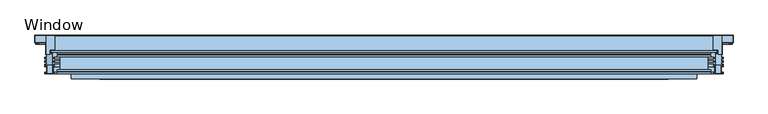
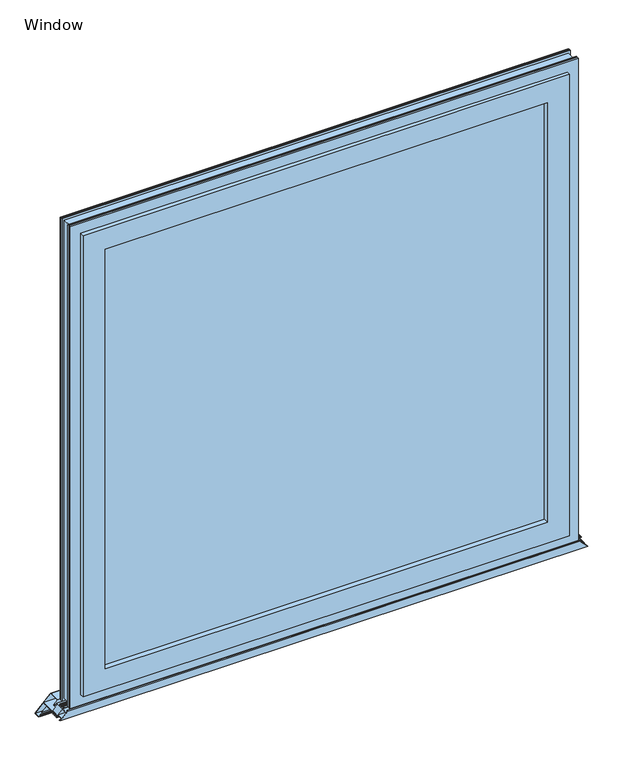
"""IFC4 building model written with IfcOpenShell, lengths in millimetres: window geometry, QO-H-QBISS_Window Module : Window."""

from ifc_helpers import new_model, si_unit, frame, origin, place, context, project, spatial, polyline, ellipse_curve, outline, extrude, faceted_brep, source, transform, mapped, element, save
from ifc_brep_helpers import plane_surface, cylinder_surface, advanced_brep


def window_7dbde55a(model_context):
    return source(origin(), model_context, "Body", "SolidModel", [
        extrude(outline(polyline([(-818.7352561, -85.0037561), (818.7352561, -85.0037561), (818.7352561, -105.0037561), (-818.7352561, -105.0037561), (-818.7352561, -85.0037561)])), frame((0.0, 0.0, 164.014744), z_axis=(0.0, 0.0, 1.0), x_axis=(1.0, 0.0, 0.0)), (0.0, 0.0, 1.0), 1640.970512),
        faceted_brep([(847.4521019, -67.0037561, 135.2978983), (847.4521019, -50.0037561, 135.2978983), (847.4521019, -50.0037561, 1833.7021017), (847.4521019, -67.0037561, 1833.7021017), (855.7500002, -50.0037561, 127.0), (855.7500002, -67.0037561, 127.0), (855.7500002, -67.0037561, 1842.0), (855.7500002, -50.0037561, 1842.0), (923.7500002, -53.8037561, 59.0), (923.7500002, -50.0037561, 59.0), (923.7500002, -50.0037561, 1910.0), (923.7500002, -53.8037561, 1910.0), (915.7500002, -57.8037561, 67.0), (915.7500002, -53.8037561, 67.0), (915.7500002, -53.8037561, 1902.0), (915.7500002, -57.8037561, 1902.0), (923.7500002, -62.1037561, 59.0), (923.7500002, -57.8037561, 59.0), (923.7500002, -57.8037561, 1910.0), (923.7500002, -62.1037561, 1910.0), (915.7500002, -97.9037561, 67.0), (915.7500002, -62.1037561, 67.0), (915.7500002, -62.1037561, 1902.0), (915.7500002, -97.9037561, 1902.0), (923.7500002, -102.2037561, 59.0), (923.7500002, -97.9037561, 59.0), (923.7500002, -97.9037561, 1910.0), (923.7500002, -102.2037561, 1910.0), (915.7500002, -106.2037561, 67.0), (915.7500002, -102.2037561, 67.0), (915.7500002, -102.2037561, 1902.0), (915.7500002, -106.2037561, 1902.0), (923.7500002, -110.0037561, 59.0), (923.7500002, -106.2037561, 59.0), (923.7500002, -106.2037561, 1910.0), (923.7500002, -110.0037561, 1910.0), (875.7500002, -98.8037561, 107.0), (875.7500002, -110.0037561, 107.0), (875.7500002, -110.0037561, 1862.0), (875.7500002, -98.8037561, 1862.0), (881.5627685, -62.5037561, 101.1872316), (881.5627685, -98.8037561, 101.1872316), (881.5627685, -98.8037561, 1867.8127684), (881.5627685, -62.5037561, 1867.8127684), (863.7500002, -114.5037561, 119.0), (863.7500002, -62.5037561, 119.0), (863.7500002, -62.5037561, 1850.0), (863.7500002, -114.5037561, 1850.0), (881.5627685, -110.7626496, 101.1872316), (881.5627685, -114.5037561, 101.1872316), (881.5627685, -114.5037561, 1867.8127684), (881.5627685, -110.7626496, 1867.8127684), (883.7500002, -124.5037561, 99.0), (883.7500002, -110.7626496, 99.0), (883.7500002, -110.7626496, 1870.0), (883.7500002, -124.5037561, 1870.0), (803.7500002, -105.0036269, 179.0), (803.7500002, -124.5037561, 179.0), (803.7500002, -124.5037561, 1790.0), (803.7500002, -105.0036269, 1790.0), (818.7352561, -85.0036357, 164.014744), (818.7352561, -105.0036269, 164.014744), (818.7352561, -105.0036269, 1804.985256), (818.7352561, -85.0036357, 1804.985256), (803.7500002, -50.0037561, 179.0), (803.7500002, -85.0036357, 179.0), (803.7500002, -85.0036357, 1790.0), (803.7500002, -50.0037561, 1790.0), (-847.4521019, -50.0037561, 1833.7021017), (-847.4521019, -67.0037561, 1833.7021017), (-855.7500002, -67.0037561, 1842.0), (-855.7500002, -50.0037561, 1842.0), (-923.7500002, -50.0037561, 1910.0), (-923.7500002, -53.8037561, 1910.0), (-915.7500002, -53.8037561, 1902.0), (-915.7500002, -57.8037561, 1902.0), (-923.7500002, -57.8037561, 1910.0), (-923.7500002, -62.1037561, 1910.0), (-915.7500002, -62.1037561, 1902.0), (-915.7500002, -97.9037561, 1902.0), (-923.7500002, -97.9037561, 1910.0), (-923.7500002, -102.2037561, 1910.0), (-915.7500002, -102.2037561, 1902.0), (-915.7500002, -106.2037561, 1902.0), (-923.7500002, -106.2037561, 1910.0), (-923.7500002, -110.0037561, 1910.0), (-875.7500002, -110.0037561, 1862.0), (-875.7500002, -98.8037561, 1862.0), (-881.5627685, -98.8037561, 1867.8127684), (-881.5627685, -62.5037561, 1867.8127684), (-863.7500002, -62.5037561, 1850.0), (-863.7500002, -114.5037561, 1850.0), (-881.5627685, -114.5037561, 1867.8127684), (-881.5627685, -110.7626496, 1867.8127684), (-883.7500002, -110.7626496, 1870.0), (-883.7500002, -124.5037561, 1870.0), (-803.7500002, -124.5037561, 1790.0), (-803.7500002, -105.0036269, 1790.0), (-818.7352561, -105.0036269, 1804.985256), (-818.7352561, -85.0036357, 1804.985256), (-803.7500002, -85.0036357, 1790.0), (-803.7500002, -50.0037561, 1790.0), (-847.4521019, -50.0037561, 135.2978983), (-847.4521019, -67.0037561, 135.2978983), (-855.7500002, -67.0037561, 127.0), (-855.7500002, -50.0037561, 127.0), (-923.7500002, -50.0037561, 59.0), (-923.7500002, -53.8037561, 59.0), (-915.7500002, -53.8037561, 67.0), (-915.7500002, -57.8037561, 67.0), (-923.7500002, -57.8037561, 59.0), (-923.7500002, -62.1037561, 59.0), (-915.7500002, -62.1037561, 67.0), (-915.7500002, -97.9037561, 67.0), (-923.7500002, -97.9037561, 59.0), (-923.7500002, -102.2037561, 59.0), (-915.7500002, -102.2037561, 67.0), (-915.7500002, -106.2037561, 67.0), (-923.7500002, -106.2037561, 59.0), (-923.7500002, -110.0037561, 59.0), (-875.7500002, -110.0037561, 107.0), (-875.7500002, -98.8037561, 107.0), (-881.5627685, -98.8037561, 101.1872316), (-881.5627685, -62.5037561, 101.1872316), (-863.7500002, -62.5037561, 119.0), (-863.7500002, -114.5037561, 119.0), (-881.5627685, -114.5037561, 101.1872316), (-881.5627685, -110.7626496, 101.1872316), (-883.7500002, -110.7626496, 99.0), (-883.7500002, -124.5037561, 99.0), (-803.7500002, -124.5037561, 179.0), (-803.7500002, -105.0036269, 179.0), (-818.7352561, -105.0036269, 164.014744), (-818.7352561, -85.0036357, 164.014744), (-803.7500002, -85.0036357, 179.0), (-803.7500002, -50.0037561, 179.0)], [[[0, 1, 2, 3]], [[4, 5, 6, 7]], [[8, 9, 10, 11]], [[12, 13, 14, 15]], [[16, 17, 18, 19]], [[20, 21, 22, 23]], [[24, 25, 26, 27]], [[28, 29, 30, 31]], [[32, 33, 34, 35]], [[36, 37, 38, 39]], [[40, 41, 42, 43]], [[44, 45, 46, 47]], [[48, 49, 50, 51]], [[52, 53, 54, 55]], [[56, 57, 58, 59]], [[60, 61, 62, 63]], [[64, 65, 66, 67]], [[3, 2, 68, 69]], [[7, 6, 70, 71]], [[11, 10, 72, 73]], [[15, 14, 74, 75]], [[19, 18, 76, 77]], [[23, 22, 78, 79]], [[27, 26, 80, 81]], [[31, 30, 82, 83]], [[35, 34, 84, 85]], [[39, 38, 86, 87]], [[43, 42, 88, 89]], [[47, 46, 90, 91]], [[51, 50, 92, 93]], [[55, 54, 94, 95]], [[59, 58, 96, 97]], [[63, 62, 98, 99]], [[67, 66, 100, 101]], [[69, 68, 102, 103]], [[71, 70, 104, 105]], [[73, 72, 106, 107]], [[75, 74, 108, 109]], [[77, 76, 110, 111]], [[79, 78, 112, 113]], [[81, 80, 114, 115]], [[83, 82, 116, 117]], [[85, 84, 118, 119]], [[87, 86, 120, 121]], [[89, 88, 122, 123]], [[91, 90, 124, 125]], [[93, 92, 126, 127]], [[95, 94, 128, 129]], [[97, 96, 130, 131]], [[99, 98, 132, 133]], [[101, 100, 134, 135]], [[103, 102, 1, 0]], [[5, 104, 70, 6], [3, 69, 103, 0]], [[105, 104, 5, 4]], [[9, 106, 72, 10], [7, 71, 105, 4]], [[107, 106, 9, 8]], [[11, 73, 107, 8], [13, 108, 74, 14]], [[109, 108, 13, 12]], [[17, 110, 76, 18], [15, 75, 109, 12]], [[111, 110, 17, 16]], [[19, 77, 111, 16], [21, 112, 78, 22]], [[113, 112, 21, 20]], [[25, 114, 80, 26], [23, 79, 113, 20]], [[115, 114, 25, 24]], [[27, 81, 115, 24], [29, 116, 82, 30]], [[117, 116, 29, 28]], [[33, 118, 84, 34], [31, 83, 117, 28]], [[119, 118, 33, 32]], [[35, 85, 119, 32], [37, 120, 86, 38]], [[121, 120, 37, 36]], [[41, 122, 88, 42], [39, 87, 121, 36]], [[123, 122, 41, 40]], [[43, 89, 123, 40], [45, 124, 90, 46]], [[125, 124, 45, 44]], [[49, 126, 92, 50], [47, 91, 125, 44]], [[127, 126, 49, 48]], [[53, 128, 94, 54], [51, 93, 127, 48]], [[129, 128, 53, 52]], [[55, 95, 129, 52], [57, 130, 96, 58]], [[131, 130, 57, 56]], [[61, 132, 98, 62], [59, 97, 131, 56]], [[133, 132, 61, 60]], [[63, 99, 133, 60], [65, 134, 100, 66]], [[135, 134, 65, 64]], [[1, 102, 68, 2], [67, 101, 135, 64]]]),
        advanced_brep(
        [(957.2023459, -75.0037405, 25.5476542), (953.7023453, -75.0037405, 29.0476548), (-953.7023453, -75.0037405, 29.0476548), (-957.2023459, -75.0037405, 25.5476542), (957.2023459, -76.5037405, 25.5476542), (-957.2023459, -76.5037405, 25.5476542), (958.7023459, -76.5037405, 24.0476542), (-958.7023459, -76.5037405, 24.0476542), (958.7023459, -72.6037405, 24.0476542), (-958.7023459, -72.6037405, 24.0476542), (957.2023459, -72.6037405, 25.5476542), (-957.2023459, -72.6037405, 25.5476542), (957.2023459, -73.8037405, 25.5476542), (-957.2023459, -73.8037405, 25.5476542), (953.7023459, -73.8037405, 29.0476542), (-953.7023459, -73.8037405, 29.0476542), (953.7023459, -65.7037405, 29.0476542), (-953.7023459, -65.7037405, 29.0476542), (957.2023459, -65.7037405, 25.5476542), (-957.2023459, -65.7037405, 25.5476542), (957.2023459, -66.9037405, 25.5476542), (-957.2023459, -66.9037405, 25.5476542), (958.7023459, -66.9037405, 24.0476542), (-958.7023459, -66.9037405, 24.0476542), (958.7023459, -63.0037405, 24.0476542), (-958.7023459, -63.0037405, 24.0476542), (957.2023459, -63.0037405, 25.5476542), (-957.2023459, -63.0037405, 25.5476542), (957.2023459, -64.5037405, 25.5476542), (-957.2023459, -64.5037405, 25.5476542), (953.7023461, -64.5037405, 29.0476541), (-953.7023461, -64.5037405, 29.0476541), (953.7023461, -55.4999986, 29.0476541), (-953.7023461, -55.4999986, 29.0476541), (956.5500002, -55.4999986, 26.2), (-956.5500002, -55.4999986, 26.2), (956.5500002, -22.4, 26.2), (-956.5500002, -22.4, 26.2), (973.9518297, -22.4, 8.7981705), (-973.9518297, -22.4, 8.7981705), (973.9518297, -26.0, 8.7981705), (-973.9518297, -26.0, 8.7981705), (976.7518297, -26.0, 5.9981705), (-976.7518297, -26.0, 5.9981705), (976.7518297, -24.7, 5.9981705), (-976.7518297, -24.7, 5.9981705), (975.4518297, -24.7, 7.2981705), (-975.4518297, -24.7, 7.2981705), (975.4518297, -22.7, 7.2981705), (-975.4518297, -22.7, 7.2981705), (983.0518297, -22.7, -0.3018295), (-983.0518297, -22.7, -0.3018295), (983.0518297, -24.8, -0.3018295), (-983.0518297, -24.8, -0.3018295), (981.7518297, -24.8, 0.9981705), (-981.7518297, -24.8, 0.9981705), (981.7518297, -26.0, 0.9981705), (-981.7518297, -26.0, 0.9981705), (984.5518297, -26.0, -1.8018295), (-984.5518297, -26.0, -1.8018295), (984.5518297, -22.4, -1.8018295), (-984.5518297, -22.4, -1.8018295), (-986.7500002, -22.4, -4.0), (986.7500002, -22.4, -4.0), (-986.7500002, -2.0, -4.0), (986.7500002, -2.0, -4.0), (-984.7500002, 0.0, -2.0), (984.7500002, 0.0, -2.0), (930.7500002, 0.0, 52.0), (-930.7500002, 0.0, 52.0), (928.7500002, -2.0, 54.0), (-928.7500002, -2.0, 54.0), (928.7500002, -43.5, 54.0), (-928.7500002, -43.5, 54.0), (942.5500002, -43.5, 40.2), (-942.5500002, -43.5, 40.2), (942.5500002, -54.0, 40.2), (-942.5500002, -54.0, 40.2), (937.1500002, -54.0, 45.6), (-937.1500002, -54.0, 45.6), (937.1500002, -51.0, 45.6), (-937.1500002, -51.0, 45.6), (939.0500002, -51.0, 43.7), (-939.0500002, -51.0, 43.7), (939.0500002, -49.6, 43.7), (-939.0500002, -49.6, 43.7), (935.7500002, -49.6, 47.0), (-935.7500002, -49.6, 47.0), (935.7500002, -64.5037405, 47.0), (-935.7500002, -64.5037405, 47.0), (932.3013135, -64.5037405, 50.4486867), (-932.3013135, -64.5037405, 50.4486867), (932.3013135, -63.0037405, 50.4486867), (-932.3013135, -63.0037405, 50.4486867), (930.8013135, -63.0037405, 51.9486867), (-930.8013135, -63.0037405, 51.9486867), (930.8013135, -66.9037405, 51.9486867), (-930.8013135, -66.9037405, 51.9486867), (932.3013135, -66.9037405, 50.4486867), (-932.3013135, -66.9037405, 50.4486867), (932.3013135, -65.7037405, 50.4486867), (-932.3013135, -65.7037405, 50.4486867), (935.8013135, -65.7037405, 46.9486867), (-935.8013135, -65.7037405, 46.9486867), (935.8013135, -73.8037405, 46.9486867), (-935.8013135, -73.8037405, 46.9486867), (932.3013135, -73.8037405, 50.4486867), (-932.3013135, -73.8037405, 50.4486867), (932.3013135, -72.6037405, 50.4486867), (-932.3013135, -72.6037405, 50.4486867), (930.8013135, -72.6037405, 51.9486867), (-930.8013135, -72.6037405, 51.9486867), (930.8013135, -76.5037405, 51.9486867), (-930.8013135, -76.5037405, 51.9486867), (932.3013135, -76.5037405, 50.4486867), (-932.3013135, -76.5037405, 50.4486867), (932.3013135, -75.0037405, 50.4486867), (-932.3013135, -75.0037405, 50.4486867), (935.8013141, -75.0037405, 46.9486861), (-935.8013141, -75.0037405, 46.9486861), (935.8013141, -84.0037561, 46.9486861), (-935.8013141, -84.0037561, 46.9486861), (932.2518297, -84.0037561, 50.4981705), (-932.2518297, -84.0037561, 50.4981705), (932.2518297, -82.8037561, 50.4981705), (-932.2518297, -82.8037561, 50.4981705), (930.7518297, -82.8037561, 51.9981705), (-930.7518297, -82.8037561, 51.9981705), (930.7518297, -89.5037561, 51.9981705), (-930.7518297, -89.5037561, 51.9981705), (932.2518297, -89.5037561, 50.4981705), (-932.2518297, -89.5037561, 50.4981705), (932.2518297, -85.7037561, 50.4981705), (-932.2518297, -85.7037561, 50.4981705), (935.5518297, -85.7037561, 47.1981705), (-935.5518297, -85.7037561, 47.1981705), (935.5518297, -108.3037561, 47.1981705), (-935.5518297, -108.3037561, 47.1981705), (932.2518297, -108.3037561, 50.4981705), (-932.2518297, -108.3037561, 50.4981705), (932.2518297, -105.5037561, 50.4981705), (-932.2518297, -105.5037561, 50.4981705), (930.7518297, -105.5037561, 51.9981705), (-930.7518297, -105.5037561, 51.9981705), (930.7518297, -110.0037561, 51.9981705), (-930.7518297, -110.0037561, 51.9981705), (958.7518297, -110.0037561, 23.9981705), (-958.7518297, -110.0037561, 23.9981705), (958.7518297, -105.5037561, 23.9981705), (-958.7518297, -105.5037561, 23.9981705), (957.2518297, -105.5037561, 25.4981705), (-957.2518297, -105.5037561, 25.4981705), (957.2518297, -108.3037561, 25.4981705), (-957.2518297, -108.3037561, 25.4981705), (953.9518297, -108.3037561, 28.7981705), (-953.9518297, -108.3037561, 28.7981705), (953.9518297, -85.7037561, 28.7981705), (-953.9518297, -85.7037561, 28.7981705), (957.2518297, -85.7037561, 25.4981705), (-957.2518297, -85.7037561, 25.4981705), (957.2518297, -89.5037561, 25.4981705), (-957.2518297, -89.5037561, 25.4981705), (958.7518297, -89.5037561, 23.9981705), (-958.7518297, -89.5037561, 23.9981705), (958.7518297, -82.8037561, 23.9981705), (-958.7518297, -82.8037561, 23.9981705), (957.2518297, -82.8037561, 25.4981705), (-957.2518297, -82.8037561, 25.4981705), (957.2518297, -84.0037561, 25.4981705), (-957.2518297, -84.0037561, 25.4981705), (953.7023453, -84.0037561, 29.0476548), (-953.7023453, -84.0037561, 29.0476548), (985.2500002, -1.5, -2.5), (956.5500002, -1.5, 26.2), (-956.5500002, -1.5, 26.2), (-985.2500002, -1.5, -2.5), (985.2500002, -20.7, -2.5), (-985.2500002, -20.7, -2.5), (956.5500002, -20.7, 26.2), (-956.5500002, -20.7, 26.2), (930.4500002, -41.5, 52.3), (944.5500002, -41.5, 38.2), (-944.5500002, -41.5, 38.2), (-930.4500002, -41.5, 52.3), (930.4500002, -1.5, 52.3), (-930.4500002, -1.5, 52.3), (954.8500002, -1.5, 27.9), (-954.8500002, -1.5, 27.9), (954.8500002, -54.0, 27.9), (-954.8500002, -54.0, 27.9), (944.5500002, -54.0, 38.2), (-944.5500002, -54.0, 38.2), (937.4518297, -85.7037561, 45.2981705), (937.4518297, -108.3037561, 45.2981705), (-937.4518297, -108.3037561, 45.2981705), (-937.4518297, -85.7037561, 45.2981705), (952.0518297, -85.7037561, 30.6981705), (-952.0518297, -85.7037561, 30.6981705), (952.0518297, -108.3037561, 30.6981705), (-952.0518297, -108.3037561, 30.6981705)],
        [
            (0, 1),
            (1, 2),
            (2, 3),
            (3, 0),
            (4, 0),
            (3, 5),
            (5, 4),
            (6, 4),
            (5, 7),
            (7, 6),
            (8, 6),
            (7, 9),
            (9, 8),
            (10, 8),
            (9, 11),
            (11, 10),
            (12, 10),
            (11, 13),
            (13, 12),
            (14, 12),
            (13, 15),
            (15, 14),
            (16, 14),
            (15, 17),
            (17, 16),
            (18, 16),
            (17, 19),
            (19, 18),
            (20, 18),
            (19, 21),
            (21, 20),
            (22, 20),
            (21, 23),
            (23, 22),
            (24, 22),
            (23, 25),
            (25, 24),
            (26, 24),
            (25, 27),
            (27, 26),
            (28, 26),
            (27, 29),
            (29, 28),
            (30, 28),
            (29, 31),
            (31, 30),
            (32, 30),
            (31, 33),
            (33, 32),
            (34, 32),
            (33, 35),
            (35, 34),
            (36, 34),
            (35, 37),
            (37, 36),
            (38, 36),
            (37, 39),
            (39, 38),
            (40, 38),
            (39, 41),
            (41, 40),
            (42, 40),
            (41, 43),
            (43, 42),
            (44, 42),
            (43, 45),
            (45, 44),
            (46, 44),
            (45, 47),
            (47, 46),
            (48, 46),
            (47, 49),
            (49, 48),
            (50, 48),
            (49, 51),
            (51, 50),
            (52, 50),
            (51, 53),
            (53, 52),
            (54, 52),
            (53, 55),
            (55, 54),
            (56, 54),
            (55, 57),
            (57, 56),
            (58, 56),
            (57, 59),
            (59, 58),
            (60, 58),
            (59, 61),
            (61, 60),
            (62, 63),
            (63, 60),
            (61, 62),
            (62, 64),
            (64, 65),
            (65, 63),
            (64, 66, ellipse_curve(frame((-984.7500002, -2.0, -2.0), z_axis=(0.7071067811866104, 0.0, -0.7071067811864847), x_axis=(0.7071067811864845, 0.0, 0.7071067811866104)), 2.8284271, 2.0)),
            (66, 67),
            (67, 65, ellipse_curve(frame((984.7500002, -2.0, -2.0), z_axis=(-0.7071067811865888, 0.0, -0.7071067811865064), x_axis=(0.7071067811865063, 0.0, -0.7071067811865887)), 2.8284271, 2.0)),
            (68, 67),
            (66, 69),
            (69, 68),
            (70, 68, ellipse_curve(frame((930.7500002, -2.0, 52.0), z_axis=(-0.7071067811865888, 0.0, -0.7071067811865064), x_axis=(0.7071067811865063, 0.0, -0.7071067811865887)), 2.8284271, 2.0)),
            (69, 71, ellipse_curve(frame((-930.7500002, -2.0, 52.0), z_axis=(0.7071067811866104, 0.0, -0.7071067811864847), x_axis=(0.7071067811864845, 0.0, 0.7071067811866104)), 2.8284271, 2.0)),
            (71, 70),
            (72, 70),
            (71, 73),
            (73, 72),
            (74, 72),
            (73, 75),
            (75, 74),
            (76, 74),
            (75, 77),
            (77, 76),
            (78, 76),
            (77, 79),
            (79, 78),
            (80, 78),
            (79, 81),
            (81, 80),
            (82, 80),
            (81, 83),
            (83, 82),
            (84, 82),
            (83, 85),
            (85, 84),
            (86, 84),
            (85, 87),
            (87, 86),
            (88, 86),
            (87, 89),
            (89, 88),
            (90, 88),
            (89, 91),
            (91, 90),
            (92, 90),
            (91, 93),
            (93, 92),
            (94, 92),
            (93, 95),
            (95, 94),
            (96, 94),
            (95, 97),
            (97, 96),
            (98, 96),
            (97, 99),
            (99, 98),
            (100, 98),
            (99, 101),
            (101, 100),
            (102, 100),
            (101, 103),
            (103, 102),
            (104, 102),
            (103, 105),
            (105, 104),
            (106, 104),
            (105, 107),
            (107, 106),
            (108, 106),
            (107, 109),
            (109, 108),
            (110, 108),
            (109, 111),
            (111, 110),
            (112, 110),
            (111, 113),
            (113, 112),
            (114, 112),
            (113, 115),
            (115, 114),
            (116, 114),
            (115, 117),
            (117, 116),
            (118, 116),
            (117, 119),
            (119, 118),
            (120, 118),
            (119, 121),
            (121, 120),
            (122, 120),
            (121, 123),
            (123, 122),
            (124, 122),
            (123, 125),
            (125, 124),
            (126, 124),
            (125, 127),
            (127, 126),
            (128, 126),
            (127, 129),
            (129, 128),
            (130, 128),
            (129, 131),
            (131, 130),
            (132, 130),
            (131, 133),
            (133, 132),
            (134, 132),
            (133, 135),
            (135, 134),
            (136, 134),
            (135, 137),
            (137, 136),
            (138, 136),
            (137, 139),
            (139, 138),
            (140, 138),
            (139, 141),
            (141, 140),
            (142, 140),
            (141, 143),
            (143, 142),
            (144, 142),
            (143, 145),
            (145, 144),
            (146, 144),
            (145, 147),
            (147, 146),
            (148, 146),
            (147, 149),
            (149, 148),
            (150, 148),
            (149, 151),
            (151, 150),
            (152, 150),
            (151, 153),
            (153, 152),
            (154, 152),
            (153, 155),
            (155, 154),
            (156, 154),
            (155, 157),
            (157, 156),
            (158, 156),
            (157, 159),
            (159, 158),
            (160, 158),
            (159, 161),
            (161, 160),
            (162, 160),
            (161, 163),
            (163, 162),
            (164, 162),
            (163, 165),
            (165, 164),
            (166, 164),
            (165, 167),
            (167, 166),
            (168, 166),
            (167, 169),
            (169, 168),
            (170, 168),
            (169, 171),
            (171, 170),
            (1, 170),
            (171, 2),
            (172, 173),
            (173, 174),
            (174, 175),
            (175, 172),
            (176, 172),
            (175, 177),
            (177, 176),
            (178, 176),
            (177, 179),
            (179, 178),
            (173, 178),
            (179, 174),
            (180, 181),
            (181, 182),
            (182, 183),
            (183, 180),
            (184, 180),
            (183, 185),
            (185, 184),
            (186, 184),
            (185, 187),
            (187, 186),
            (188, 186),
            (187, 189),
            (189, 188),
            (190, 188),
            (189, 191),
            (191, 190),
            (181, 190),
            (191, 182),
            (192, 193),
            (193, 194),
            (194, 195),
            (195, 192),
            (196, 192),
            (195, 197),
            (197, 196),
            (198, 196),
            (197, 199),
            (199, 198),
            (193, 198),
            (199, 194),
        ],
        [
            plane_surface(frame((986.7500002, -75.0037405, 29.0476548), z_axis=(0.0, -1.0, 0.0), x_axis=(-1.0, 0.0, 0.0))),
            plane_surface(frame((986.7500002, -75.0037405, 25.5476542), z_axis=(0.0, 0.0, 1.0), x_axis=(-1.0, 0.0, 0.0))),
            plane_surface(frame((986.7500002, -76.5037405, 25.5476542), z_axis=(0.0, -1.0, 0.0), x_axis=(-1.0, 0.0, 0.0))),
            plane_surface(frame((986.7500002, -76.5037405, 24.0476542), z_axis=(0.0, 0.0, -1.0), x_axis=(-1.0, 0.0, 0.0))),
            plane_surface(frame((986.7500002, -72.6037405, 24.0476542), z_axis=(0.0, 1.0, 0.0), x_axis=(-1.0, 0.0, 0.0))),
            plane_surface(frame((986.7500002, -72.6037405, 25.5476542), z_axis=(0.0, 0.0, 1.0), x_axis=(-1.0, 0.0, 0.0))),
            plane_surface(frame((986.7500002, -73.8037405, 25.5476542), z_axis=(0.0, 1.0, 0.0), x_axis=(-1.0, 0.0, 0.0))),
            plane_surface(frame((986.7500002, -73.8037405, 29.0476542), z_axis=(0.0, 0.0, -1.0), x_axis=(-1.0, 0.0, 0.0))),
            plane_surface(frame((986.7500002, -65.7037405, 29.0476542), z_axis=(0.0, -1.0, 0.0), x_axis=(-1.0, 0.0, 0.0))),
            plane_surface(frame((986.7500002, -65.7037405, 25.5476542), z_axis=(0.0, 0.0, 1.0), x_axis=(-1.0, 0.0, 0.0))),
            plane_surface(frame((986.7500002, -66.9037405, 25.5476542), z_axis=(0.0, -1.0, 0.0), x_axis=(-1.0, 0.0, 0.0))),
            plane_surface(frame((986.7500002, -66.9037405, 24.0476542), z_axis=(0.0, 0.0, -1.0), x_axis=(-1.0, 0.0, 0.0))),
            plane_surface(frame((986.7500002, -63.0037405, 24.0476542), z_axis=(0.0, 1.0, 0.0), x_axis=(-1.0, 0.0, 0.0))),
            plane_surface(frame((986.7500002, -63.0037405, 25.5476542), z_axis=(0.0, 0.0, 1.0), x_axis=(-1.0, 0.0, 0.0))),
            plane_surface(frame((986.7500002, -64.5037405, 25.5476542), z_axis=(0.0, 1.0, 0.0), x_axis=(-1.0, 0.0, 0.0))),
            plane_surface(frame((986.7500002, -64.5037405, 29.0476541), z_axis=(0.0, 0.0, -1.0), x_axis=(-1.0, 0.0, 0.0))),
            plane_surface(frame((986.7500002, -55.4999986, 29.0476541), z_axis=(0.0, -1.0, 0.0), x_axis=(-1.0, 0.0, 0.0))),
            plane_surface(frame((986.7500002, -55.4999986, 26.2), z_axis=(0.0, 0.0, -1.0), x_axis=(-1.0, 0.0, 0.0))),
            plane_surface(frame((986.7500002, -22.4, 26.2), z_axis=(0.0, -1.0, 0.0), x_axis=(-1.0, 0.0, 0.0))),
            plane_surface(frame((986.7500002, -22.4, 8.7981705), z_axis=(0.0, 0.0, 1.0), x_axis=(-1.0, 0.0, 0.0))),
            plane_surface(frame((986.7500002, -26.0, 8.7981705), z_axis=(0.0, -1.0, 0.0), x_axis=(-1.0, 0.0, 0.0))),
            plane_surface(frame((986.7500002, -26.0, 5.9981705), z_axis=(0.0, 0.0, -1.0), x_axis=(-1.0, 0.0, 0.0))),
            plane_surface(frame((986.7500002, -24.7, 5.9981705), z_axis=(0.0, 1.0, 0.0), x_axis=(-1.0, 0.0, 0.0))),
            plane_surface(frame((986.7500002, -24.7, 7.2981705), z_axis=(0.0, 0.0, -1.0), x_axis=(-1.0, 0.0, 0.0))),
            plane_surface(frame((986.7500002, -22.7, 7.2981705), z_axis=(0.0, -1.0, 0.0), x_axis=(-1.0, 0.0, 0.0))),
            plane_surface(frame((986.7500002, -22.7, -0.3018295), z_axis=(0.0, 0.0, 1.0), x_axis=(-1.0, 0.0, 0.0))),
            plane_surface(frame((986.7500002, -24.8, -0.3018295), z_axis=(0.0, 1.0, 0.0), x_axis=(-1.0, 0.0, 0.0))),
            plane_surface(frame((986.7500002, -24.8, 0.9981705), z_axis=(0.0, 0.0, 1.0), x_axis=(-1.0, 0.0, 0.0))),
            plane_surface(frame((986.7500002, -26.0, 0.9981705), z_axis=(0.0, -1.0, 0.0), x_axis=(-1.0, 0.0, 0.0))),
            plane_surface(frame((986.7500002, -26.0, -1.8018295), z_axis=(0.0, 0.0, -1.0), x_axis=(-1.0, 0.0, 0.0))),
            plane_surface(frame((986.7500002, -22.4, -1.8018295), z_axis=(0.0, -1.0, 0.0), x_axis=(-1.0, 0.0, 0.0))),
            plane_surface(frame((986.7500002, -22.4, -4.0), z_axis=(0.0, 0.0, -1.0), x_axis=(-1.0, 0.0, 0.0))),
            cylinder_surface(frame((986.7500002, -2.0, -2.0), z_axis=(1.0, 0.0, 0.0), x_axis=(0.0, -1.0, 0.0)), 2.0),
            plane_surface(frame((986.7500002, 0.0, -2.0), z_axis=(0.0, 1.0, 0.0), x_axis=(-1.0, 0.0, 0.0))),
            cylinder_surface(frame((986.7500002, -2.0, 52.0), z_axis=(1.0, 0.0, 0.0), x_axis=(0.0, -1.0, 0.0)), 2.0),
            plane_surface(frame((986.7500002, -2.0, 54.0), z_axis=(0.0, 0.0, 1.0), x_axis=(-1.0, 0.0, 0.0))),
            plane_surface(frame((986.7500002, -43.5, 54.0), z_axis=(0.0, -1.0, 0.0), x_axis=(-1.0, 0.0, 0.0))),
            plane_surface(frame((986.7500002, -43.5, 40.2), z_axis=(0.0, 0.0, 1.0), x_axis=(-1.0, 0.0, 0.0))),
            plane_surface(frame((986.7500002, -54.0, 40.2), z_axis=(0.0, 1.0, 0.0), x_axis=(-1.0, 0.0, 0.0))),
            plane_surface(frame((986.7500002, -54.0, 45.6), z_axis=(0.0, 0.0, -1.0), x_axis=(-1.0, 0.0, 0.0))),
            plane_surface(frame((986.7500002, -51.0, 45.6), z_axis=(0.0, -1.0, 0.0), x_axis=(-1.0, 0.0, 0.0))),
            plane_surface(frame((986.7500002, -51.0, 43.7), z_axis=(0.0, 0.0, -1.0), x_axis=(-1.0, 0.0, 0.0))),
            plane_surface(frame((986.7500002, -49.6, 43.7), z_axis=(0.0, 1.0, 0.0), x_axis=(-1.0, 0.0, 0.0))),
            plane_surface(frame((986.7500002, -49.6, 47.0), z_axis=(0.0, 0.0, 1.0), x_axis=(-1.0, 0.0, 0.0))),
            plane_surface(frame((986.7500002, -64.5037405, 47.0), z_axis=(0.0, 1.0, 0.0), x_axis=(-1.0, 0.0, 0.0))),
            plane_surface(frame((986.7500002, -64.5037405, 50.4486867), z_axis=(0.0, 0.0, -1.0), x_axis=(-1.0, 0.0, 0.0))),
            plane_surface(frame((986.7500002, -63.0037405, 50.4486867), z_axis=(0.0, 1.0, 0.0), x_axis=(-1.0, 0.0, 0.0))),
            plane_surface(frame((986.7500002, -63.0037405, 51.9486867), z_axis=(0.0, 0.0, 1.0), x_axis=(-1.0, 0.0, 0.0))),
            plane_surface(frame((986.7500002, -66.9037405, 51.9486867), z_axis=(0.0, -1.0, 0.0), x_axis=(-1.0, 0.0, 0.0))),
            plane_surface(frame((986.7500002, -66.9037405, 50.4486867), z_axis=(0.0, 0.0, -1.0), x_axis=(-1.0, 0.0, 0.0))),
            plane_surface(frame((986.7500002, -65.7037405, 50.4486867), z_axis=(0.0, -1.0, 0.0), x_axis=(-1.0, 0.0, 0.0))),
            plane_surface(frame((986.7500002, -65.7037405, 46.9486867), z_axis=(0.0, 0.0, 1.0), x_axis=(-1.0, 0.0, 0.0))),
            plane_surface(frame((986.7500002, -73.8037405, 46.9486867), z_axis=(0.0, 1.0, 0.0), x_axis=(-1.0, 0.0, 0.0))),
            plane_surface(frame((986.7500002, -73.8037405, 50.4486867), z_axis=(0.0, 0.0, -1.0), x_axis=(-1.0, 0.0, 0.0))),
            plane_surface(frame((986.7500002, -72.6037405, 50.4486867), z_axis=(0.0, 1.0, 0.0), x_axis=(-1.0, 0.0, 0.0))),
            plane_surface(frame((986.7500002, -72.6037405, 51.9486867), z_axis=(0.0, 0.0, 1.0), x_axis=(-1.0, 0.0, 0.0))),
            plane_surface(frame((986.7500002, -76.5037405, 51.9486867), z_axis=(0.0, -1.0, 0.0), x_axis=(-1.0, 0.0, 0.0))),
            plane_surface(frame((986.7500002, -76.5037405, 50.4486867), z_axis=(0.0, 0.0, -1.0), x_axis=(-1.0, 0.0, 0.0))),
            plane_surface(frame((986.7500002, -75.0037405, 50.4486867), z_axis=(0.0, -1.0, 0.0), x_axis=(-1.0, 0.0, 0.0))),
            plane_surface(frame((986.7500002, -75.0037405, 46.9486861), z_axis=(0.0, 0.0, 1.0), x_axis=(-1.0, 0.0, 0.0))),
            plane_surface(frame((986.7500002, -84.0037561, 46.9486861), z_axis=(0.0, 1.0, 0.0), x_axis=(-1.0, 0.0, 0.0))),
            plane_surface(frame((986.7500002, -84.0037561, 50.4981705), z_axis=(0.0, 0.0, -1.0), x_axis=(-1.0, 0.0, 0.0))),
            plane_surface(frame((986.7500002, -82.8037561, 50.4981705), z_axis=(0.0, 1.0, 0.0), x_axis=(-1.0, 0.0, 0.0))),
            plane_surface(frame((986.7500002, -82.8037561, 51.9981705), z_axis=(0.0, 0.0, 1.0), x_axis=(-1.0, 0.0, 0.0))),
            plane_surface(frame((986.7500002, -89.5037561, 51.9981705), z_axis=(0.0, -1.0, 0.0), x_axis=(-1.0, 0.0, 0.0))),
            plane_surface(frame((986.7500002, -89.5037561, 50.4981705), z_axis=(0.0, 0.0, -1.0), x_axis=(-1.0, 0.0, 0.0))),
            plane_surface(frame((986.7500002, -85.7037561, 50.4981705), z_axis=(0.0, -1.0, 0.0), x_axis=(-1.0, 0.0, 0.0))),
            plane_surface(frame((986.7500002, -85.7037561, 47.1981705), z_axis=(0.0, 0.0, 1.0), x_axis=(-1.0, 0.0, 0.0))),
            plane_surface(frame((986.7500002, -108.3037561, 47.1981705), z_axis=(0.0, 1.0, 0.0), x_axis=(-1.0, 0.0, 0.0))),
            plane_surface(frame((986.7500002, -108.3037561, 50.4981705), z_axis=(0.0, 0.0, -1.0), x_axis=(-1.0, 0.0, 0.0))),
            plane_surface(frame((986.7500002, -105.5037561, 50.4981705), z_axis=(0.0, 1.0, 0.0), x_axis=(-1.0, 0.0, 0.0))),
            plane_surface(frame((986.7500002, -105.5037561, 51.9981705), z_axis=(0.0, 0.0, 1.0), x_axis=(-1.0, 0.0, 0.0))),
            plane_surface(frame((986.7500002, -110.0037561, 51.9981705), z_axis=(0.0, -1.0, 0.0), x_axis=(-1.0, 0.0, 0.0))),
            plane_surface(frame((986.7500002, -110.0037561, 23.9981705), z_axis=(0.0, 0.0, -1.0), x_axis=(-1.0, 0.0, 0.0))),
            plane_surface(frame((986.7500002, -105.5037561, 23.9981705), z_axis=(0.0, 1.0, 0.0), x_axis=(-1.0, 0.0, 0.0))),
            plane_surface(frame((986.7500002, -105.5037561, 25.4981705), z_axis=(0.0, 0.0, 1.0), x_axis=(-1.0, 0.0, 0.0))),
            plane_surface(frame((986.7500002, -108.3037561, 25.4981705), z_axis=(0.0, 1.0, 0.0), x_axis=(-1.0, 0.0, 0.0))),
            plane_surface(frame((986.7500002, -108.3037561, 28.7981705), z_axis=(0.0, 0.0, -1.0), x_axis=(-1.0, 0.0, 0.0))),
            plane_surface(frame((986.7500002, -85.7037561, 28.7981705), z_axis=(0.0, -1.0, 0.0), x_axis=(-1.0, 0.0, 0.0))),
            plane_surface(frame((986.7500002, -85.7037561, 25.4981705), z_axis=(0.0, 0.0, 1.0), x_axis=(-1.0, 0.0, 0.0))),
            plane_surface(frame((986.7500002, -89.5037561, 25.4981705), z_axis=(0.0, -1.0, 0.0), x_axis=(-1.0, 0.0, 0.0))),
            plane_surface(frame((986.7500002, -89.5037561, 23.9981705), z_axis=(0.0, 0.0, -1.0), x_axis=(-1.0, 0.0, 0.0))),
            plane_surface(frame((986.7500002, -82.8037561, 23.9981705), z_axis=(0.0, 1.0, 0.0), x_axis=(-1.0, 0.0, 0.0))),
            plane_surface(frame((986.7500002, -82.8037561, 25.4981705), z_axis=(0.0, 0.0, 1.0), x_axis=(-1.0, 0.0, 0.0))),
            plane_surface(frame((986.7500002, -84.0037561, 25.4981705), z_axis=(0.0, 1.0, 0.0), x_axis=(-1.0, 0.0, 0.0))),
            plane_surface(frame((986.7500002, -84.0037561, 29.0476548), z_axis=(0.0, 0.0, -1.0), x_axis=(-1.0, 0.0, 0.0))),
            plane_surface(frame((986.7500002, -1.5, 26.2), z_axis=(0.0, -1.0, 0.0), x_axis=(-1.0, 0.0, 0.0))),
            plane_surface(frame((986.7500002, -1.5, -2.5), z_axis=(0.0, 0.0, 1.0), x_axis=(-1.0, 0.0, 0.0))),
            plane_surface(frame((986.7500002, -20.7, -2.5), z_axis=(0.0, 1.0, 0.0), x_axis=(-1.0, 0.0, 0.0))),
            plane_surface(frame((986.7500002, -20.7, 26.2), z_axis=(0.0, 0.0, -1.0), x_axis=(-1.0, 0.0, 0.0))),
            plane_surface(frame((986.7500002, -41.5, 38.2), z_axis=(0.0, 1.0, 0.0), x_axis=(-1.0, 0.0, 0.0))),
            plane_surface(frame((986.7500002, -41.5, 52.3), z_axis=(0.0, 0.0, -1.0), x_axis=(-1.0, 0.0, 0.0))),
            plane_surface(frame((986.7500002, -1.5, 52.3), z_axis=(0.0, -1.0, 0.0), x_axis=(-1.0, 0.0, 0.0))),
            plane_surface(frame((986.7500002, -1.5, 27.9), z_axis=(0.0, 0.0, 1.0), x_axis=(-1.0, 0.0, 0.0))),
            plane_surface(frame((986.7500002, -54.0, 27.9), z_axis=(0.0, 1.0, 0.0), x_axis=(-1.0, 0.0, 0.0))),
            plane_surface(frame((986.7500002, -54.0, 38.2), z_axis=(0.0, 0.0, -1.0), x_axis=(-1.0, 0.0, 0.0))),
            plane_surface(frame((986.7500002, -108.3037561, 45.2981705), z_axis=(0.0, 0.0, -1.0), x_axis=(-1.0, 0.0, 0.0))),
            plane_surface(frame((986.7500002, -85.7037561, 45.2981705), z_axis=(0.0, -1.0, 0.0), x_axis=(-1.0, 0.0, 0.0))),
            plane_surface(frame((986.7500002, -85.7037561, 30.6981705), z_axis=(0.0, 0.0, 1.0), x_axis=(-1.0, 0.0, 0.0))),
            plane_surface(frame((986.7500002, -108.3037561, 30.6981705), z_axis=(0.0, 1.0, 0.0), x_axis=(-1.0, 0.0, 0.0))),
            plane_surface(frame((928.7500002, -180.0, 54.0), z_axis=(0.7071067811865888, 0.0, 0.7071067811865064), x_axis=(0.0, 1.0, 0.0))),
            plane_surface(frame((-986.7794846, -180.0, -4.0294844), z_axis=(-0.7071067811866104, 0.0, 0.7071067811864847), x_axis=(0.0, 1.0, 0.0))),
        ],
        [
            (0, [[1, 2, 3, 4]]),
            (1, [[5, -4, 6, 7]]),
            (2, [[8, -7, 9, 10]]),
            (3, [[11, -10, 12, 13]]),
            (4, [[14, -13, 15, 16]]),
            (5, [[17, -16, 18, 19]]),
            (6, [[20, -19, 21, 22]]),
            (7, [[23, -22, 24, 25]]),
            (8, [[26, -25, 27, 28]]),
            (9, [[29, -28, 30, 31]]),
            (10, [[32, -31, 33, 34]]),
            (11, [[35, -34, 36, 37]]),
            (12, [[38, -37, 39, 40]]),
            (13, [[41, -40, 42, 43]]),
            (14, [[44, -43, 45, 46]]),
            (15, [[47, -46, 48, 49]]),
            (16, [[50, -49, 51, 52]]),
            (17, [[53, -52, 54, 55]]),
            (18, [[56, -55, 57, 58]]),
            (19, [[59, -58, 60, 61]]),
            (20, [[62, -61, 63, 64]]),
            (21, [[65, -64, 66, 67]]),
            (22, [[68, -67, 69, 70]]),
            (23, [[71, -70, 72, 73]]),
            (24, [[74, -73, 75, 76]]),
            (25, [[77, -76, 78, 79]]),
            (26, [[80, -79, 81, 82]]),
            (27, [[83, -82, 84, 85]]),
            (28, [[86, -85, 87, 88]]),
            (29, [[89, -88, 90, 91]]),
            (30, [[92, 93, -91, 94]]),
            (31, [[-92, 95, 96, 97]]),
            (32, [[-96, 98, 99, 100]]),
            (33, [[101, -99, 102, 103]]),
            (34, [[104, -103, 105, 106]]),
            (35, [[107, -106, 108, 109]]),
            (36, [[110, -109, 111, 112]]),
            (37, [[113, -112, 114, 115]]),
            (38, [[116, -115, 117, 118]]),
            (39, [[119, -118, 120, 121]]),
            (40, [[122, -121, 123, 124]]),
            (41, [[125, -124, 126, 127]]),
            (42, [[128, -127, 129, 130]]),
            (43, [[131, -130, 132, 133]]),
            (44, [[134, -133, 135, 136]]),
            (45, [[137, -136, 138, 139]]),
            (46, [[140, -139, 141, 142]]),
            (47, [[143, -142, 144, 145]]),
            (48, [[146, -145, 147, 148]]),
            (49, [[149, -148, 150, 151]]),
            (50, [[152, -151, 153, 154]]),
            (51, [[155, -154, 156, 157]]),
            (52, [[158, -157, 159, 160]]),
            (53, [[161, -160, 162, 163]]),
            (54, [[164, -163, 165, 166]]),
            (55, [[167, -166, 168, 169]]),
            (56, [[170, -169, 171, 172]]),
            (57, [[173, -172, 174, 175]]),
            (58, [[176, -175, 177, 178]]),
            (59, [[179, -178, 180, 181]]),
            (60, [[182, -181, 183, 184]]),
            (61, [[185, -184, 186, 187]]),
            (62, [[188, -187, 189, 190]]),
            (63, [[191, -190, 192, 193]]),
            (64, [[194, -193, 195, 196]]),
            (65, [[197, -196, 198, 199]]),
            (66, [[200, -199, 201, 202]]),
            (67, [[203, -202, 204, 205]]),
            (68, [[206, -205, 207, 208]]),
            (69, [[209, -208, 210, 211]]),
            (70, [[212, -211, 213, 214]]),
            (71, [[215, -214, 216, 217]]),
            (72, [[218, -217, 219, 220]]),
            (73, [[221, -220, 222, 223]]),
            (74, [[224, -223, 225, 226]]),
            (75, [[227, -226, 228, 229]]),
            (76, [[230, -229, 231, 232]]),
            (77, [[233, -232, 234, 235]]),
            (78, [[236, -235, 237, 238]]),
            (79, [[239, -238, 240, 241]]),
            (80, [[242, -241, 243, 244]]),
            (81, [[245, -244, 246, 247]]),
            (82, [[248, -247, 249, 250]]),
            (83, [[251, -250, 252, 253]]),
            (84, [[254, -253, 255, 256]]),
            (85, [[257, -256, 258, -2]]),
            (86, [[259, 260, 261, 262]]),
            (87, [[263, -262, 264, 265]]),
            (88, [[266, -265, 267, 268]]),
            (89, [[269, -268, 270, -260]]),
            (90, [[271, 272, 273, 274]]),
            (91, [[275, -274, 276, 277]]),
            (92, [[278, -277, 279, 280]]),
            (93, [[281, -280, 282, 283]]),
            (94, [[284, -283, 285, 286]]),
            (95, [[287, -286, 288, -272]]),
            (96, [[289, 290, 291, 292]]),
            (97, [[293, -292, 294, 295]]),
            (98, [[296, -295, 297, 298]]),
            (99, [[299, -298, 300, -290]]),
            (100, [[-1, -5, -8, -11, -14, -17, -20, -23, -26, -29, -32, -35, -38, -41, -44, -47, -50, -53, -56, -59, -62, -65, -68, -71, -74, -77, -80, -83, -86, -89, -93, -97, -100, -101, -104, -107, -110, -113, -116, -119, -122, -125, -128, -131, -134, -137, -140, -143, -146, -149, -152, -155, -158, -161, -164, -167, -170, -173, -176, -179, -182, -185, -188, -191, -194, -197, -200, -203, -206, -209, -212, -215, -218, -221, -224, -227, -230, -233, -236, -239, -242, -245, -248, -251, -254, -257], [-259, -263, -266, -269], [-271, -275, -278, -281, -284, -287], [-289, -293, -296, -299]]),
            (101, [[-3, -258, -255, -252, -249, -246, -243, -240, -237, -234, -231, -228, -225, -222, -219, -216, -213, -210, -207, -204, -201, -198, -195, -192, -189, -186, -183, -180, -177, -174, -171, -168, -165, -162, -159, -156, -153, -150, -147, -144, -141, -138, -135, -132, -129, -126, -123, -120, -117, -114, -111, -108, -105, -102, -98, -95, -94, -90, -87, -84, -81, -78, -75, -72, -69, -66, -63, -60, -57, -54, -51, -48, -45, -42, -39, -36, -33, -30, -27, -24, -21, -18, -15, -12, -9, -6], [-261, -270, -267, -264], [-273, -288, -285, -282, -279, -276], [-291, -300, -297, -294]]),
        ],
    ),
    ])


if __name__ == "__main__":
    model = new_model("IFC4")
    model_context = context("Model", 3, world=origin())
    ifc_project = project(units=[si_unit("LENGTHUNIT", "METRE", prefix="MILLI")], contexts=[model_context])
    site = spatial("IfcSite", under=ifc_project)
    building = spatial("IfcBuilding", under=site)
    placement = place(None, origin())
    window_shape = window_7dbde55a(model_context)
    element("IfcWindow", 1, ObjectType="QO-H-QBISS_Window Module : Window", at=placement, inside=building, context=model_context, shape_type="MappedRepresentation", body=[
        mapped(window_shape, transform((0.0, 0.0, 0.0), x_axis=(1.0, 0.0, 0.0), y_axis=(0.0, 1.0, 0.0), z_axis=(0.0, 0.0, 1.0))),
    ])
    save(model, "model.ifc")
